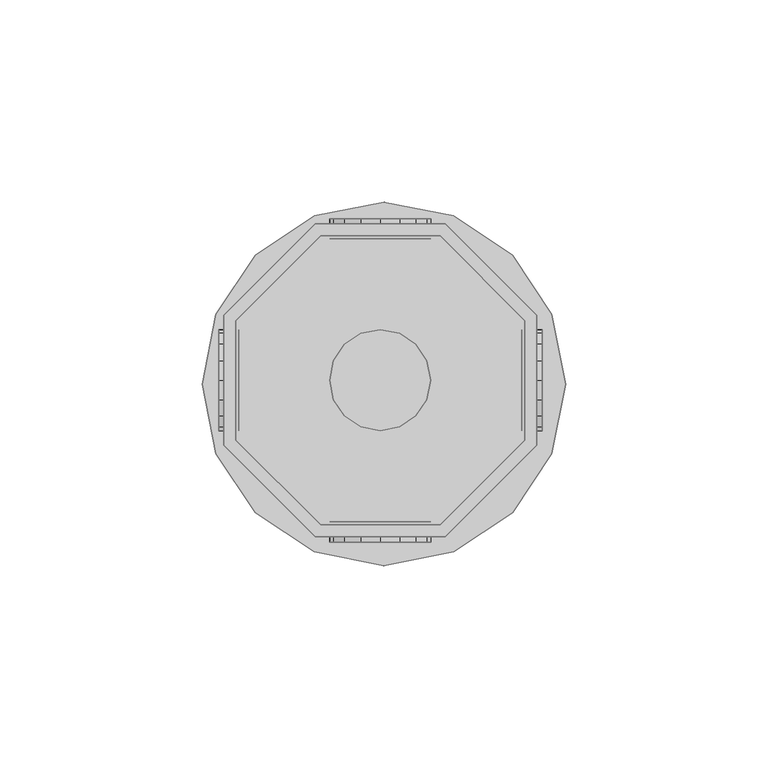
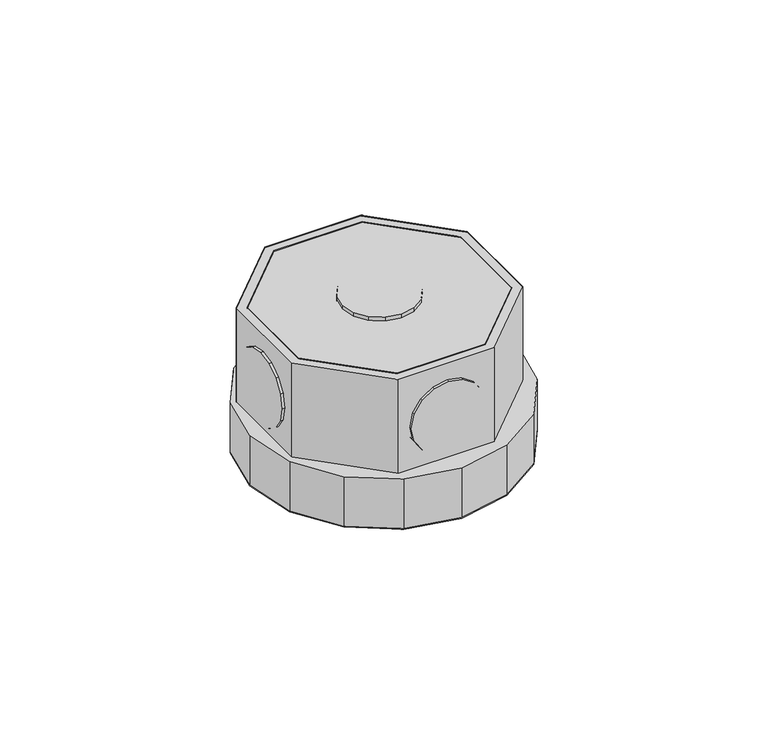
"""IFC4 building model written with IfcOpenShell, lengths in millimetres: light fixture geometry,  213954 :  213954."""

from ifc_helpers import new_model, si_unit, origin, place, context, project, spatial, triangles, source, transform, mapped, element, save


def light_fixture_87e2c51c(model_context):
    return source(origin(), model_context, "Body", "Tessellation", [
        triangles([(5260.3800751, 23884.7002441, 2924.5999741), (5230.7801376, 23884.7002441, 2975.400071), (5230.7801376, 23884.7002441, 2924.5999741), (5260.3800751, 23884.7002441, 2975.400071), (5261.5800018, 23810.2001404, 2924.5999741), (5229.480217, 23810.2001404, 2975.400071), (5229.480217, 23810.2001404, 2924.5999741), (5261.5800018, 23810.2001404, 2975.400071), (5209.7802567, 23863.6992004, 2975.400071), (5209.7802567, 23863.6992004, 2924.5999741), (5284.2797791, 23832.9010803, 2924.5999741), (5284.2797791, 23832.9010803, 2975.400071), (5209.7802567, 23834.1010071, 2975.400071), (5209.7802567, 23834.1010071, 2924.5999741), (5284.2797791, 23864.9991211, 2924.5999741), (5284.2797791, 23864.9991211, 2975.400071), (5230.7801376, 23813.1999573, 2975.400071), (5230.7801376, 23813.1999573, 2924.5999741), (5261.5800018, 23887.700061, 2924.5999741), (5261.5800018, 23887.700061, 2975.400071), (5260.3800751, 23813.1999573, 2924.5999741), (5260.3800751, 23813.1999573, 2975.400071), (5229.480217, 23887.700061, 2975.400071), (5229.480217, 23887.700061, 2924.5999741), (5281.2799622, 23834.1010071, 2924.5999741), (5281.2799622, 23834.1010071, 2975.400071), (5206.7798584, 23864.9991211, 2975.400071), (5206.7798584, 23864.9991211, 2924.5999741), (5206.7798584, 23832.9010803, 2975.400071), (5281.2799622, 23863.6992004, 2975.400071), (5281.2799622, 23863.6992004, 2924.5999741), (5206.7798584, 23832.9010803, 2924.5999741), (5209.7802567, 23834.1010071, 2972.3999634), (5230.7801376, 23813.1999573, 2972.3999634), (5260.3800751, 23813.1999573, 2972.3999634), (5281.2799622, 23834.1010071, 2972.3999634), (5281.2799622, 23863.6992004, 2972.3999634), (5260.3800751, 23884.7002441, 2972.3999634), (5230.7801376, 23884.7002441, 2972.3999634), (5209.7802567, 23863.6992004, 2972.3999634), (5206.7798584, 23864.9991211, 2942.4000504), (5229.480217, 23887.700061, 2942.4000504), (5261.5800018, 23887.700061, 2942.4000504), (5284.2797791, 23864.9991211, 2942.4000504), (5284.2797791, 23832.9010803, 2942.4000504), (5261.5800018, 23810.2001404, 2942.4000504), (5229.480217, 23810.2001404, 2942.4000504), (5206.7798584, 23832.9010803, 2942.4000504), (5229.1802353, 23806.5003662, 2942.4000504), (5204.8799744, 23830.7988831, 2942.4000504), (5214.5799637, 23816.1997742, 2942.4000504), (5201.4801819, 23848.0001587, 2942.4000504), (5204.8799744, 23865.2991028, 2942.4000504), (5214.5799637, 23879.9005371, 2942.4000504), (5229.1802353, 23889.5999451, 2942.4000504), (5246.4797607, 23892.9997375, 2942.4000504), (5263.6798737, 23889.5999451, 2942.4000504), (5287.9801346, 23865.2991028, 2942.4000504), (5278.2801453, 23879.9005371, 2942.4000504), (5246.4797607, 23803.0005798, 2942.4000504), (5263.6798737, 23806.5003662, 2942.4000504), (5278.2801453, 23816.1997742, 2942.4000504), (5287.9801346, 23830.7988831, 2942.4000504), (5291.479921, 23848.0001587, 2942.4000504), (5204.8799744, 23830.7988831, 2924.5999741), (5229.1802353, 23806.5003662, 2924.5999741), (5214.5799637, 23816.1997742, 2924.5999741), (5201.4801819, 23848.0001587, 2924.5999741), (5204.8799744, 23865.2991028, 2924.5999741), (5214.5799637, 23879.9005371, 2924.5999741), (5229.1802353, 23889.5999451, 2924.5999741), (5246.4797607, 23892.9997375, 2924.5999741), (5263.6798737, 23889.5999451, 2924.5999741), (5287.9801346, 23865.2991028, 2924.5999741), (5278.2801453, 23879.9005371, 2924.5999741), (5246.4797607, 23803.0005798, 2924.5999741), (5263.6798737, 23806.5003662, 2924.5999741), (5278.2801453, 23816.1997742, 2924.5999741), (5287.9801346, 23830.7988831, 2924.5999741), (5291.479921, 23848.0001587, 2924.5999741), (5233.9799423, 23888.8999878, 2952.6000092), (5240.7801086, 23888.8999878, 2945.9001274), (5236.6797775, 23888.8999878, 2948.5999626), (5233.0799973, 23888.8999878, 2957.4000069), (5245.5798157, 23888.8999878, 2944.8998978), (5233.9799423, 23888.8999878, 2962.2000046), (5250.3801041, 23888.8999878, 2945.9001274), (5236.6797775, 23888.8999878, 2966.2000511), (5254.3798599, 23888.8999878, 2948.5999626), (5240.7801086, 23888.8999878, 2968.8998863), (5257.0802765, 23888.8999878, 2952.6000092), (5245.5798157, 23888.8999878, 2969.900116), (5258.0802155, 23888.8999878, 2957.4000069), (5250.3801041, 23888.8999878, 2968.8998863), (5257.0802765, 23888.8999878, 2962.2000046), (5254.3798599, 23888.8999878, 2966.2000511), (5240.7801086, 23883.900293, 2945.9001274), (5233.9799423, 23883.900293, 2952.6000092), (5236.6797775, 23883.900293, 2948.5999626), (5245.5798157, 23883.900293, 2944.8998978), (5233.0799973, 23883.900293, 2957.4000069), (5250.3801041, 23883.900293, 2945.9001274), (5233.9799423, 23883.900293, 2962.2000046), (5254.3798599, 23883.900293, 2948.5999626), (5236.6797775, 23883.900293, 2966.2000511), (5240.7801086, 23883.900293, 2968.8998863), (5257.0802765, 23883.900293, 2952.6000092), (5245.5798157, 23883.900293, 2969.900116), (5258.0802155, 23883.900293, 2957.4000069), (5250.3801041, 23883.900293, 2968.8998863), (5257.0802765, 23883.900293, 2962.2000046), (5254.3798599, 23883.900293, 2966.2000511), (5233.9799423, 23813.8999146, 2952.6000092), (5240.7801086, 23813.8999146, 2945.9001274), (5236.6797775, 23813.8999146, 2948.5999626), (5233.0799973, 23813.8999146, 2957.4000069), (5245.5798157, 23813.8999146, 2944.8998978), (5233.9799423, 23813.8999146, 2962.2000046), (5250.3801041, 23813.8999146, 2945.9001274), (5236.6797775, 23813.8999146, 2966.2000511), (5254.3798599, 23813.8999146, 2948.5999626), (5240.7801086, 23813.8999146, 2968.8998863), (5257.0802765, 23813.8999146, 2952.6000092), (5245.5798157, 23813.8999146, 2969.900116), (5258.0802155, 23813.8999146, 2957.4000069), (5250.3801041, 23813.8999146, 2968.8998863), (5257.0802765, 23813.8999146, 2962.2000046), (5254.3798599, 23813.8999146, 2966.2000511), (5240.7801086, 23808.9002197, 2945.9001274), (5233.9799423, 23808.9002197, 2952.6000092), (5236.6797775, 23808.9002197, 2948.5999626), (5245.5798157, 23808.9002197, 2944.8998978), (5233.0799973, 23808.9002197, 2957.4000069), (5250.3801041, 23808.9002197, 2945.9001274), (5233.9799423, 23808.9002197, 2962.2000046), (5254.3798599, 23808.9002197, 2948.5999626), (5236.6797775, 23808.9002197, 2966.2000511), (5240.7801086, 23808.9002197, 2968.8998863), (5257.0802765, 23808.9002197, 2952.6000092), (5245.5798157, 23808.9002197, 2969.900116), (5258.0802155, 23808.9002197, 2957.4000069), (5250.3801041, 23808.9002197, 2968.8998863), (5257.0802765, 23808.9002197, 2962.2000046), (5254.3798599, 23808.9002197, 2966.2000511), (5210.5802078, 23844.1003967, 2945.9001274), (5210.5802078, 23837.4008057, 2952.6000092), (5210.5802078, 23840.1006409, 2948.5999626), (5210.5802078, 23848.9001038, 2944.8998978), (5210.5802078, 23836.4008667, 2957.4000069), (5210.5802078, 23853.6998108, 2945.9001274), (5210.5802078, 23837.4008057, 2962.2000046), (5210.5802078, 23857.7995605, 2948.5999626), (5210.5802078, 23840.1006409, 2966.2000511), (5210.5802078, 23844.1003967, 2968.8998863), (5210.5802078, 23860.4993958, 2952.6000092), (5210.5802078, 23848.9001038, 2969.900116), (5210.5802078, 23861.3993408, 2957.4000069), (5210.5802078, 23853.6998108, 2968.8998863), (5210.5802078, 23860.4993958, 2962.2000046), (5210.5802078, 23857.7995605, 2966.2000511), (5205.5799316, 23837.4008057, 2952.6000092), (5205.5799316, 23844.1003967, 2945.9001274), (5205.5799316, 23840.1006409, 2948.5999626), (5205.5799316, 23836.4008667, 2957.4000069), (5205.5799316, 23848.9001038, 2944.8998978), (5205.5799316, 23837.4008057, 2962.2000046), (5205.5799316, 23853.6998108, 2945.9001274), (5205.5799316, 23840.1006409, 2966.2000511), (5205.5799316, 23857.7995605, 2948.5999626), (5205.5799316, 23844.1003967, 2968.8998863), (5205.5799316, 23860.4993958, 2952.6000092), (5205.5799316, 23848.9001038, 2969.900116), (5205.5799316, 23861.3993408, 2957.4000069), (5205.5799316, 23853.6998108, 2968.8998863), (5205.5799316, 23860.4993958, 2962.2000046), (5205.5799316, 23857.7995605, 2966.2000511), (5285.5802811, 23844.1003967, 2945.9001274), (5285.5802811, 23837.4008057, 2952.6000092), (5285.5802811, 23840.1006409, 2948.5999626), (5285.5802811, 23848.9001038, 2944.8998978), (5285.5802811, 23836.4008667, 2957.4000069), (5285.5802811, 23853.6998108, 2945.9001274), (5285.5802811, 23837.4008057, 2962.2000046), (5285.5802811, 23857.7995605, 2948.5999626), (5285.5802811, 23840.1006409, 2966.2000511), (5285.5802811, 23844.1003967, 2968.8998863), (5285.5802811, 23860.4993958, 2952.6000092), (5285.5802811, 23848.9001038, 2969.900116), (5285.5802811, 23861.3993408, 2957.4000069), (5285.5802811, 23853.6998108, 2968.8998863), (5285.5802811, 23860.4993958, 2962.2000046), (5285.5802811, 23857.7995605, 2966.2000511), (5280.5800049, 23837.4008057, 2952.6000092), (5280.5800049, 23844.1003967, 2945.9001274), (5280.5800049, 23840.1006409, 2948.5999626), (5280.5800049, 23836.4008667, 2957.4000069), (5280.5800049, 23848.9001038, 2944.8998978), (5280.5800049, 23837.4008057, 2962.2000046), (5280.5800049, 23853.6998108, 2945.9001274), (5280.5800049, 23840.1006409, 2966.2000511), (5280.5800049, 23857.7995605, 2948.5999626), (5280.5800049, 23844.1003967, 2968.8998863), (5280.5800049, 23860.4993958, 2952.6000092), (5280.5800049, 23848.9001038, 2969.900116), (5280.5800049, 23861.3993408, 2957.4000069), (5280.5800049, 23853.6998108, 2968.8998863), (5280.5800049, 23860.4993958, 2962.2000046), (5280.5800049, 23857.7995605, 2966.2000511), (5240.7801086, 23837.4008057, 2976.9999733), (5233.9799423, 23844.1003967, 2976.9999733), (5236.6797775, 23840.1006409, 2976.9999733), (5233.0799973, 23848.9001038, 2976.9999733), (5245.5798157, 23836.4008667, 2976.9999733), (5233.9799423, 23853.6998108, 2976.9999733), (5250.3801041, 23837.4008057, 2976.9999733), (5236.6797775, 23857.7995605, 2976.9999733), (5254.3798599, 23840.1006409, 2976.9999733), (5240.7801086, 23860.4993958, 2976.9999733), (5257.0802765, 23844.1003967, 2976.9999733), (5245.5798157, 23861.3993408, 2976.9999733), (5258.0802155, 23848.9001038, 2976.9999733), (5250.3801041, 23860.4993958, 2976.9999733), (5257.0802765, 23853.6998108, 2976.9999733), (5254.3798599, 23857.7995605, 2976.9999733), (5233.9799423, 23844.1003967, 2971.9999878), (5240.7801086, 23837.4008057, 2971.9999878), (5236.6797775, 23840.1006409, 2971.9999878), (5233.0799973, 23848.9001038, 2971.9999878), (5245.5798157, 23836.4008667, 2971.9999878), (5233.9799423, 23853.6998108, 2971.9999878), (5250.3801041, 23837.4008057, 2971.9999878), (5236.6797775, 23857.7995605, 2971.9999878), (5254.3798599, 23840.1006409, 2971.9999878), (5240.7801086, 23860.4993958, 2971.9999878), (5257.0802765, 23844.1003967, 2971.9999878), (5245.5798157, 23861.3993408, 2971.9999878), (5258.0802155, 23848.9001038, 2971.9999878), (5250.3801041, 23860.4993958, 2971.9999878), (5257.0802765, 23853.6998108, 2971.9999878), (5254.3798599, 23857.7995605, 2971.9999878)], [[1, 2, 3], [2, 1, 4], [5, 6, 7], [6, 5, 8], [3, 9, 10], [9, 3, 2], [11, 8, 5], [8, 11, 12], [10, 13, 14], [13, 10, 9], [15, 12, 11], [12, 15, 16], [14, 17, 18], [17, 14, 13], [19, 16, 15], [16, 19, 20], [17, 21, 18], [21, 17, 22], [23, 19, 24], [19, 23, 20], [22, 25, 21], [25, 22, 26], [27, 24, 28], [24, 27, 23], [6, 13, 29], [29, 13, 27], [27, 13, 9], [27, 9, 23], [23, 9, 2], [23, 2, 4], [23, 4, 20], [20, 4, 30], [8, 17, 6], [6, 17, 13], [17, 8, 22], [12, 22, 8], [22, 12, 26], [30, 26, 12], [16, 30, 12], [20, 30, 16], [30, 1, 31], [1, 30, 4], [6, 32, 7], [32, 6, 29], [32, 14, 7], [28, 14, 32], [14, 28, 10], [24, 10, 28], [10, 24, 3], [1, 3, 24], [19, 1, 24], [31, 1, 19], [7, 18, 5], [14, 18, 7], [5, 18, 21], [5, 21, 11], [11, 21, 25], [11, 25, 31], [11, 31, 15], [15, 31, 19], [26, 31, 25], [31, 26, 30], [29, 28, 32], [28, 29, 27], [17, 33, 34], [33, 17, 13], [35, 17, 34], [17, 35, 22], [36, 22, 35], [22, 36, 26], [37, 26, 36], [26, 37, 30], [38, 30, 37], [30, 38, 4], [2, 38, 39], [38, 2, 4], [17, 9, 13], [9, 17, 22], [9, 22, 2], [2, 22, 26], [2, 26, 4], [4, 26, 30], [13, 40, 33], [40, 13, 9], [40, 34, 33], [35, 34, 40], [35, 40, 39], [35, 39, 36], [36, 39, 38], [36, 38, 37], [9, 39, 40], [39, 9, 2], [24, 41, 28], [41, 24, 42], [19, 42, 24], [42, 19, 43], [44, 19, 15], [19, 44, 43], [45, 15, 11], [15, 45, 44], [46, 11, 5], [11, 46, 45], [47, 5, 7], [5, 47, 46], [32, 47, 7], [47, 32, 48], [28, 48, 32], [48, 28, 41], [49, 50, 51], [48, 50, 49], [50, 48, 52], [41, 52, 48], [52, 41, 53], [53, 41, 54], [42, 54, 41], [54, 42, 55], [55, 42, 43], [55, 43, 56], [56, 43, 57], [57, 43, 44], [57, 44, 58], [57, 58, 59], [47, 49, 60], [49, 47, 48], [47, 60, 46], [61, 46, 60], [46, 61, 62], [46, 62, 45], [45, 62, 63], [44, 45, 63], [44, 63, 64], [44, 64, 58], [65, 66, 67], [66, 65, 32], [68, 32, 65], [32, 68, 28], [28, 68, 69], [70, 28, 69], [28, 70, 24], [71, 24, 70], [19, 24, 71], [19, 71, 72], [73, 19, 72], [19, 73, 15], [74, 15, 73], [74, 73, 75], [76, 66, 7], [32, 7, 66], [5, 76, 7], [76, 5, 77], [77, 5, 78], [11, 78, 5], [78, 11, 79], [79, 11, 15], [79, 15, 80], [80, 15, 74], [57, 75, 73], [75, 57, 59], [56, 73, 72], [73, 56, 57], [55, 72, 71], [72, 55, 56], [54, 71, 70], [71, 54, 55], [53, 70, 69], [70, 53, 54], [52, 69, 68], [69, 52, 53], [50, 68, 65], [68, 50, 52], [51, 65, 67], [65, 51, 50], [66, 51, 67], [51, 66, 49], [76, 49, 66], [49, 76, 60], [77, 60, 76], [60, 77, 61], [78, 61, 77], [61, 78, 62], [79, 62, 78], [62, 79, 63], [80, 63, 79], [63, 80, 64], [75, 58, 74], [58, 75, 59], [74, 64, 80], [64, 74, 58], [81, 82, 83], [82, 81, 84], [85, 82, 84], [85, 84, 86], [87, 85, 86], [87, 86, 88], [87, 88, 89], [89, 88, 90], [89, 90, 91], [91, 90, 92], [91, 92, 93], [93, 92, 94], [93, 94, 95], [95, 94, 96], [97, 98, 99], [98, 97, 100], [101, 98, 100], [101, 100, 102], [103, 101, 102], [103, 102, 104], [103, 104, 105], [105, 104, 106], [106, 104, 107], [106, 107, 108], [108, 107, 109], [108, 109, 110], [110, 109, 111], [110, 111, 112], [87, 104, 102], [104, 87, 89], [85, 102, 100], [102, 85, 87], [82, 100, 97], [100, 82, 85], [83, 97, 99], [97, 83, 82], [98, 83, 99], [83, 98, 81], [101, 81, 98], [81, 101, 84], [103, 84, 101], [84, 103, 86], [105, 86, 103], [86, 105, 88], [106, 88, 105], [88, 106, 90], [108, 90, 106], [90, 108, 92], [110, 92, 108], [92, 110, 94], [112, 94, 110], [94, 112, 96], [95, 112, 111], [112, 95, 96], [93, 111, 109], [111, 93, 95], [89, 107, 104], [107, 89, 91], [91, 109, 107], [109, 91, 93], [113, 114, 115], [114, 113, 116], [117, 114, 116], [117, 116, 118], [119, 117, 118], [119, 118, 120], [119, 120, 121], [121, 120, 122], [121, 122, 123], [123, 122, 124], [123, 124, 125], [125, 124, 126], [125, 126, 127], [127, 126, 128], [129, 130, 131], [130, 129, 132], [133, 130, 132], [133, 132, 134], [135, 133, 134], [135, 134, 136], [135, 136, 137], [137, 136, 138], [138, 136, 139], [138, 139, 140], [140, 139, 141], [140, 141, 142], [142, 141, 143], [142, 143, 144], [119, 136, 134], [136, 119, 121], [117, 134, 132], [134, 117, 119], [114, 132, 129], [132, 114, 117], [115, 129, 131], [129, 115, 114], [130, 115, 131], [115, 130, 113], [133, 113, 130], [113, 133, 116], [135, 116, 133], [116, 135, 118], [137, 118, 135], [118, 137, 120], [138, 120, 137], [120, 138, 122], [140, 122, 138], [122, 140, 124], [142, 124, 140], [124, 142, 126], [144, 126, 142], [126, 144, 128], [127, 144, 143], [144, 127, 128], [125, 143, 141], [143, 125, 127], [121, 139, 136], [139, 121, 123], [123, 141, 139], [141, 123, 125], [145, 146, 147], [146, 145, 148], [149, 146, 148], [149, 148, 150], [151, 149, 150], [151, 150, 152], [151, 152, 153], [153, 152, 154], [154, 152, 155], [154, 155, 156], [156, 155, 157], [156, 157, 158], [158, 157, 159], [158, 159, 160], [161, 162, 163], [162, 161, 164], [165, 162, 164], [165, 164, 166], [167, 165, 166], [167, 166, 168], [169, 167, 168], [169, 168, 170], [169, 170, 171], [171, 170, 172], [171, 172, 173], [173, 172, 174], [173, 174, 175], [175, 174, 176], [158, 176, 174], [176, 158, 160], [156, 174, 172], [174, 156, 158], [154, 172, 170], [172, 154, 156], [153, 170, 168], [170, 153, 154], [151, 168, 166], [168, 151, 153], [149, 166, 164], [166, 149, 151], [146, 164, 161], [164, 146, 149], [147, 161, 163], [161, 147, 146], [162, 147, 163], [147, 162, 145], [165, 145, 162], [145, 165, 148], [167, 148, 165], [148, 167, 150], [169, 150, 167], [150, 169, 152], [171, 152, 169], [152, 171, 155], [173, 155, 171], [155, 173, 157], [176, 159, 175], [159, 176, 160], [175, 157, 173], [157, 175, 159], [177, 178, 179], [178, 177, 180], [181, 178, 180], [181, 180, 182], [183, 181, 182], [183, 182, 184], [183, 184, 185], [185, 184, 186], [186, 184, 187], [186, 187, 188], [188, 187, 189], [188, 189, 190], [190, 189, 191], [190, 191, 192], [193, 194, 195], [194, 193, 196], [197, 194, 196], [197, 196, 198], [199, 197, 198], [199, 198, 200], [201, 199, 200], [201, 200, 202], [201, 202, 203], [203, 202, 204], [203, 204, 205], [205, 204, 206], [205, 206, 207], [207, 206, 208], [190, 208, 206], [208, 190, 192], [188, 206, 204], [206, 188, 190], [186, 204, 202], [204, 186, 188], [185, 202, 200], [202, 185, 186], [183, 200, 198], [200, 183, 185], [181, 198, 196], [198, 181, 183], [178, 196, 193], [196, 178, 181], [179, 193, 195], [193, 179, 178], [194, 179, 195], [179, 194, 177], [197, 177, 194], [177, 197, 180], [199, 180, 197], [180, 199, 182], [201, 182, 199], [182, 201, 184], [203, 184, 201], [184, 203, 187], [205, 187, 203], [187, 205, 189], [208, 191, 207], [191, 208, 192], [207, 189, 205], [189, 207, 191], [209, 210, 211], [212, 210, 209], [212, 209, 213], [214, 212, 213], [214, 213, 215], [216, 214, 215], [216, 215, 217], [216, 217, 218], [218, 217, 219], [218, 219, 220], [220, 219, 221], [220, 221, 222], [222, 221, 223], [222, 223, 224], [225, 226, 227], [226, 225, 228], [229, 226, 228], [229, 228, 230], [231, 229, 230], [231, 230, 232], [231, 232, 233], [233, 232, 234], [233, 234, 235], [235, 234, 236], [235, 236, 237], [237, 236, 238], [237, 238, 239], [239, 238, 240], [222, 240, 238], [240, 222, 224], [220, 238, 236], [238, 220, 222], [218, 236, 234], [236, 218, 220], [216, 234, 232], [234, 216, 218], [214, 232, 230], [232, 214, 216], [212, 230, 228], [230, 212, 214], [210, 228, 225], [228, 210, 212], [211, 225, 227], [225, 211, 210], [226, 211, 227], [211, 226, 209], [229, 209, 226], [209, 229, 213], [231, 213, 229], [213, 231, 215], [233, 215, 231], [215, 233, 217], [235, 217, 233], [217, 235, 219], [237, 219, 235], [219, 237, 221], [240, 223, 239], [223, 240, 224], [239, 221, 237], [221, 239, 223]], closed=False),
    ])


if __name__ == "__main__":
    model = new_model("IFC4")
    model_context = context("Model", 3, world=origin())
    ifc_project = project(units=[si_unit("LENGTHUNIT", "METRE", prefix="MILLI")], contexts=[model_context])
    site = spatial("IfcSite", under=ifc_project)
    building = spatial("IfcBuilding", under=site)
    placement = place(None, origin())
    light_fixture_shape = light_fixture_87e2c51c(model_context)
    element("IfcLightFixture", 1, ObjectType=" 213954 :  213954", at=placement, inside=building, context=model_context, shape_type="MappedRepresentation", body=[
        mapped(light_fixture_shape, transform((0.0, 0.0, 0.0), x_axis=(1.0, 0.0, 0.0), y_axis=(0.0, 1.0, 0.0), z_axis=(0.0, 0.0, 1.0))),
    ])
    save(model, "model.ifc")
